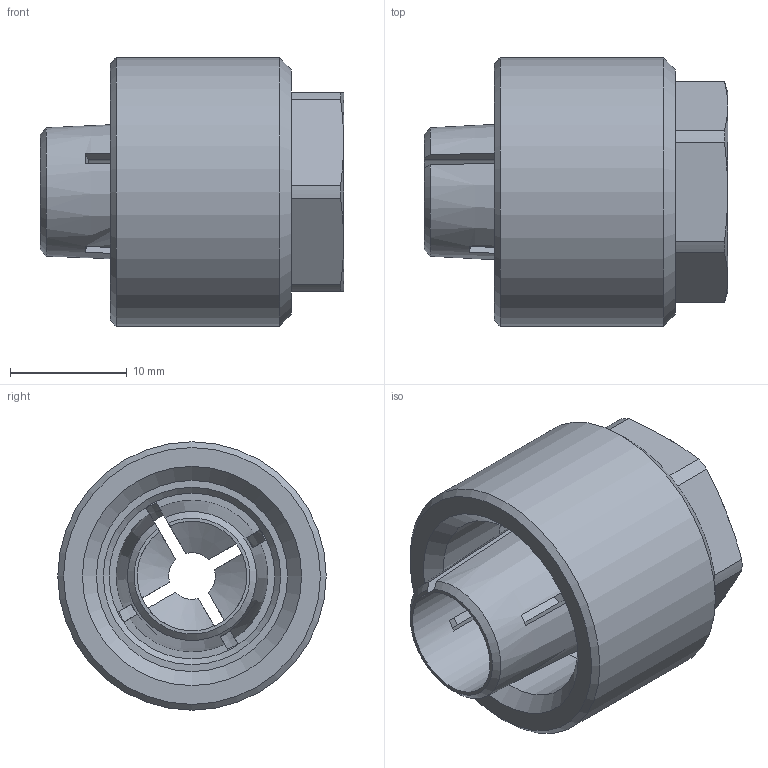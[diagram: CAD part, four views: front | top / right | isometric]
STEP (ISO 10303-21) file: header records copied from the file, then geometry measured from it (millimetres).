
FILE_DESCRIPTION(('STEP AP214'), '1');
FILE_NAME('Öàíãà AMB çàæèìíàÿ ñ ãàéêîé 4mm', '', ('UNSPECIFIED'), ('UNSPECIFIED'), 'C3D Converter', 'C3D Toolkit', '');
FILE_SCHEMA(('AUTOMOTIVE_DESIGN { 1 0 10303 214 3 1 1}'));
Length unit declared in the file: millimetre
Assembly tree (2 placements, depth 2):
  (unnamed)
    (unnamed)
    (unnamed)
Bounding box: 26 x 23 x 23 mm (x, y, z)
Volume: 4964.1 mm3; surface area: 5116.7 mm2
Topology: 2 solids, 2 shells, 91 faces, 229 edges, 148 vertices
Faces by surface type: plane 44, cylinder 26, cone 21
Full cylindrical faces by diameter (mm): 11.5 x1, 14.2 x1, 15.6 x1, 16.376 x1, 18.1 x1, 18.5 x1, 23 x1
Entity records: 3399 total; most frequent: CARTESIAN_POINT 1120, DIRECTION 446, ORIENTED_EDGE 434, EDGE_CURVE 217, AXIS2_PLACEMENT_3D 176, VERTEX_POINT 148, EDGE_LOOP 111, LINE 94
